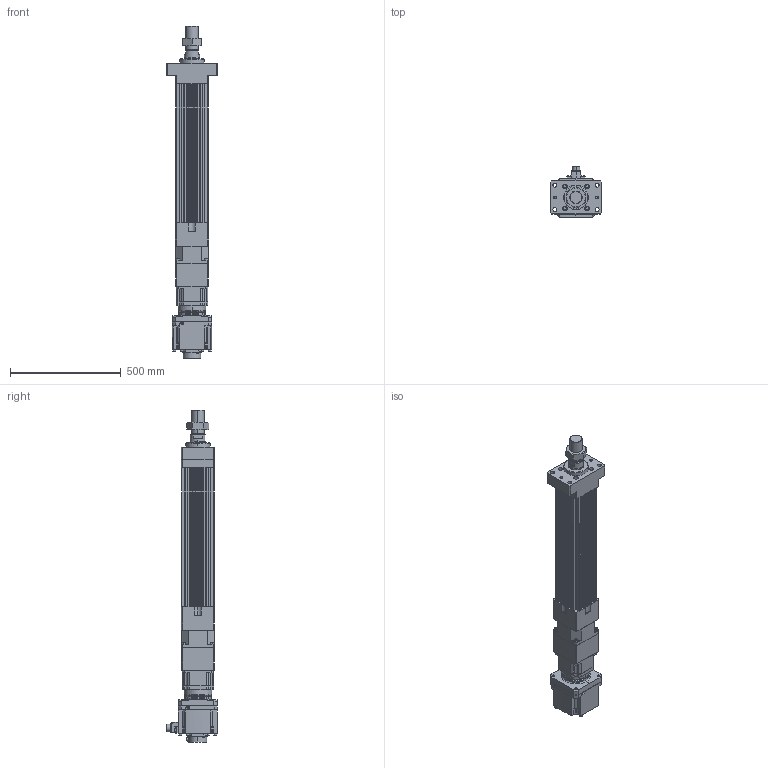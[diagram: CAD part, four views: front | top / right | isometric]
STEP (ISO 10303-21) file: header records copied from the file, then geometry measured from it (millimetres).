
FILE_DESCRIPTION (( 'STEP AP203' ), '1' );
FILE_NAME ('HES150NS(HS)-S350-W035G00-M-FM.STEP', '2023-02-01T04:31:14', ( 'tms' ), ( '' ), 'SwSTEP 2.0', 'SolidWorks 2013', '' );
FILE_SCHEMA (( 'CONFIG_CONTROL_DESIGN' ));
Length unit declared in the file: millimetre
Products named in the file (9): P0403500801; P1301500001; HES150-S350-G142-FM; AB1421; HES150 ROD M ST350; AB142-003[HG-SR352]; M56X2.0P; HES150NS(HS)-S350-W035G00-M-FM; HG-SR352
Assembly tree (8 placements, depth 3):
  HES150NS(HS)-S350-W035G00-M-FM
    HES150-S350-G142-FM
    HES150 ROD M ST350
    M56X2.0P
    AB142-003[HG-SR352]
      AB1421
      P1301500001
      P0403500801
    HG-SR352
Bounding box: 230 x 228.85 x 1497.5 mm (x, y, z)
Volume: 17239147.5 mm3; surface area: 1837231.3 mm2
Topology: 5 solids, 23 shells, 1508 faces, 3908 edges, 2538 vertices
Faces by surface type: cylinder 687, plane 587, cone 152, bspline 76, torus 6
Entity records: 55082 total; most frequent: CARTESIAN_POINT 16753, DIRECTION 8014, ORIENTED_EDGE 7718, EDGE_CURVE 3881, AXIS2_PLACEMENT_3D 3024, VERTEX_POINT 2538, VECTOR 1966, LINE 1966
